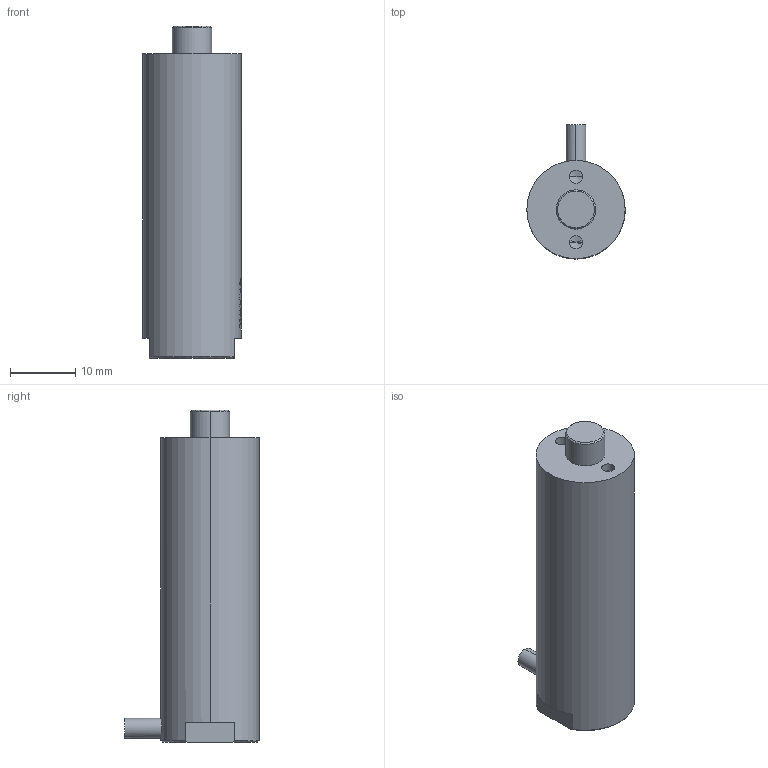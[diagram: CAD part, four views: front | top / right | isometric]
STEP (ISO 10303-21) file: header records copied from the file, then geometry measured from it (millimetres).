
FILE_DESCRIPTION (( 'STEP AP203' ), '1' );
FILE_NAME ('40VS15ƽͷ.STEP', '2024-11-30T03:35:06', ( 'daohangxitong.com' ), ( 'daohangxitong.com' ), 'SwSTEP 2.0', 'SolidWorks 2016', '' );
FILE_SCHEMA (( 'CONFIG_CONTROL_DESIGN' ));
Products named in the file (1): 40VS15ƽͷ
Bounding box: 15 x 20.5 x 50.7 mm (x, y, z)
Volume: 8288.7 mm3; surface area: 2738.4 mm2
Topology: 1 solids, 1 shells, 697 faces, 1994 edges, 1323 vertices
Faces by surface type: bspline 610, cylinder 42, plane 33, cone 12
Entity records: 38241 total; most frequent: CARTESIAN_POINT 25465, ORIENTED_EDGE 3976, EDGE_CURVE 1988, B_SPLINE_CURVE_WITH_KNOTS 1870, VERTEX_POINT 1323, EDGE_LOOP 727, ADVANCED_FACE 697, FACE_OUTER_BOUND 697
